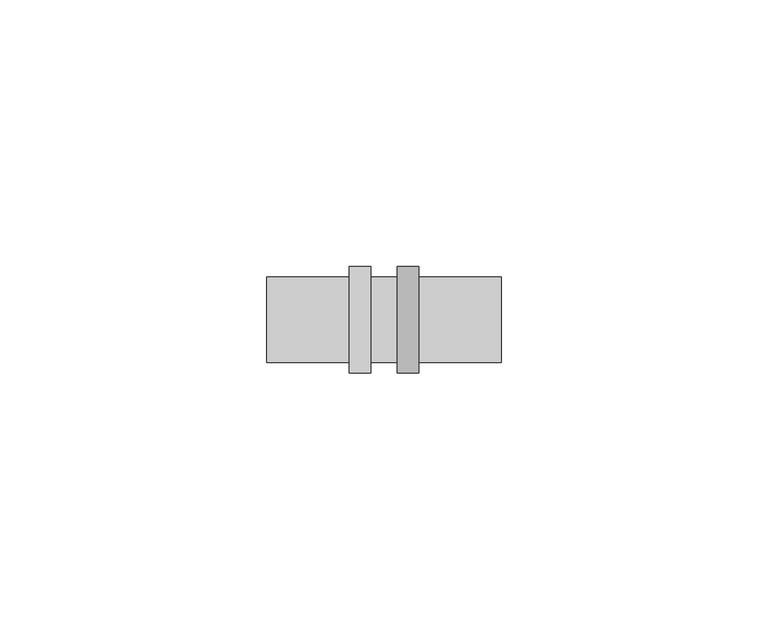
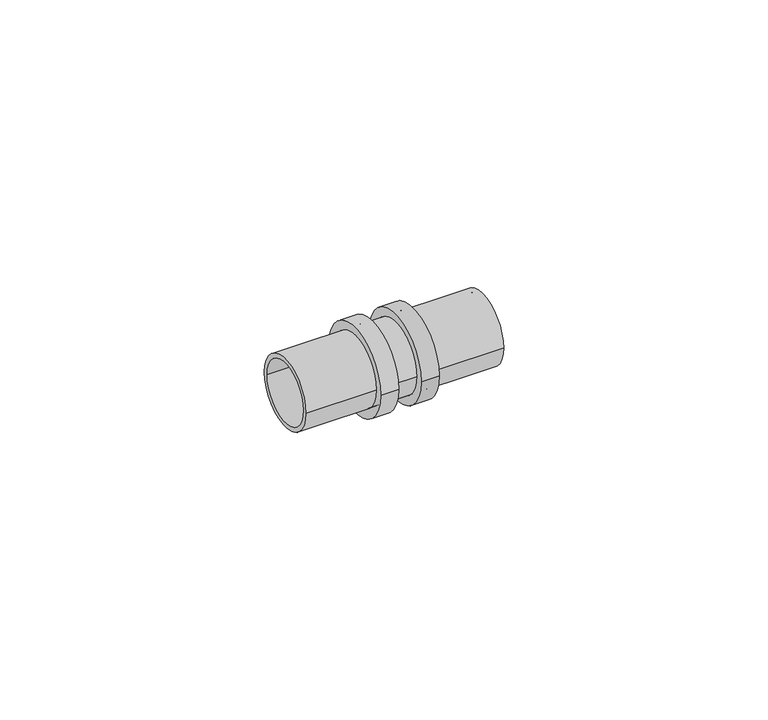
"""IFC4 building model written with IfcOpenShell, lengths in millimetres: pipe fitting geometry, БИР ПЕКС_НПР_Муфта прямая : Муфта соединительная прямая."""

from ifc_helpers import new_model, si_unit, point, frame, origin, origin_2d, place, context, project, spatial, circle_curve, trimmed, segment, composite_curve, outline, extrude, source, transform, mapped, element, save


def pipe_fitting_a579391d(model_context):
    return source(origin(), model_context, "Body", "SweptSolid", [
        extrude(outline(composite_curve([segment(trimmed(circle_curve(origin_2d(), 8.0), [point((-8.0, 0.0))], [point((8.0, 0.0))], False, "CARTESIAN"), True, "CONTINUOUS"), segment(trimmed(circle_curve(origin_2d(), 8.0), [point((8.0, 0.0))], [point((-8.0, 0.0))], False, "CARTESIAN"), True, "CONTINUOUS")], self_intersect=False), holes=[composite_curve([segment(trimmed(circle_curve(origin_2d(), 7.0), [point((-7.0, 0.0))], [point((7.0, 0.0))], True, "CARTESIAN"), True, "CONTINUOUS"), segment(trimmed(circle_curve(origin_2d(), 7.0), [point((7.0, 0.0))], [point((-7.0, 0.0))], True, "CARTESIAN"), True, "CONTINUOUS")], self_intersect=False)]), frame((-22.0, 0.0, 0.0), z_axis=(1.0, 0.0, 0.0), x_axis=(0.0, 1.0, 0.0)), (0.0, 0.0, 1.0), 44.0),
        extrude(outline(composite_curve([segment(trimmed(circle_curve(origin_2d(), 10.0), [point((-10.0, 0.0))], [point((10.0, 0.0))], False, "CARTESIAN"), True, "CONTINUOUS"), segment(trimmed(circle_curve(origin_2d(), 10.0), [point((10.0, 0.0))], [point((-10.0, 0.0))], False, "CARTESIAN"), True, "CONTINUOUS")], self_intersect=False), holes=[composite_curve([segment(trimmed(circle_curve(origin_2d(), 8.0), [point((-8.0, 0.0))], [point((8.0, 0.0))], True, "CARTESIAN"), True, "CONTINUOUS"), segment(trimmed(circle_curve(origin_2d(), 8.0), [point((8.0, 0.0))], [point((-8.0, 0.0))], True, "CARTESIAN"), True, "CONTINUOUS")], self_intersect=False)]), frame((2.5, 0.0, 0.0), z_axis=(1.0, 0.0, 0.0), x_axis=(0.0, 1.0, 0.0)), (0.0, 0.0, 1.0), 4.0),
        extrude(outline(composite_curve([segment(trimmed(circle_curve(origin_2d(), 10.0), [point((-10.0, 0.0))], [point((10.0, 0.0))], False, "CARTESIAN"), True, "CONTINUOUS"), segment(trimmed(circle_curve(origin_2d(), 10.0), [point((10.0, 0.0))], [point((-10.0, 0.0))], False, "CARTESIAN"), True, "CONTINUOUS")], self_intersect=False), holes=[composite_curve([segment(trimmed(circle_curve(origin_2d(), 8.0), [point((-8.0, 0.0))], [point((8.0, 0.0))], True, "CARTESIAN"), True, "CONTINUOUS"), segment(trimmed(circle_curve(origin_2d(), 8.0), [point((8.0, 0.0))], [point((-8.0, 0.0))], True, "CARTESIAN"), True, "CONTINUOUS")], self_intersect=False)]), frame((-6.5, 0.0, 0.0), z_axis=(1.0, 0.0, 0.0), x_axis=(0.0, 1.0, 0.0)), (0.0, 0.0, 1.0), 4.0),
        extrude(outline(composite_curve([segment(trimmed(circle_curve(origin_2d(), 8.0), [point((-8.0, 0.0))], [point((8.0, 0.0))], False, "CARTESIAN"), True, "CONTINUOUS"), segment(trimmed(circle_curve(origin_2d(), 8.0), [point((8.0, 0.0))], [point((-8.0, 0.0))], False, "CARTESIAN"), True, "CONTINUOUS")], self_intersect=False)), frame((-6.5, 0.0, 0.0), z_axis=(1.0, 0.0, 0.0), x_axis=(0.0, 1.0, 0.0)), (0.0, 0.0, 1.0), 13.0),
    ])


if __name__ == "__main__":
    model = new_model("IFC4")
    model_context = context("Model", 3, world=origin())
    ifc_project = project(units=[si_unit("LENGTHUNIT", "METRE", prefix="MILLI")], contexts=[model_context])
    site = spatial("IfcSite", under=ifc_project)
    building = spatial("IfcBuilding", under=site)
    placement = place(None, origin())
    pipe_fitting_shape = pipe_fitting_a579391d(model_context)
    element("IfcPipeFitting", 1, ObjectType="БИР ПЕКС_НПР_Муфта прямая : Муфта соединительная прямая", at=placement, inside=building, context=model_context, shape_type="MappedRepresentation", body=[
        mapped(pipe_fitting_shape, transform((0.0, 0.0, 0.0), x_axis=(1.0, 0.0, 0.0), y_axis=(0.0, 1.0, 0.0), z_axis=(0.0, 0.0, 1.0))),
    ])
    save(model, "model.ifc")
